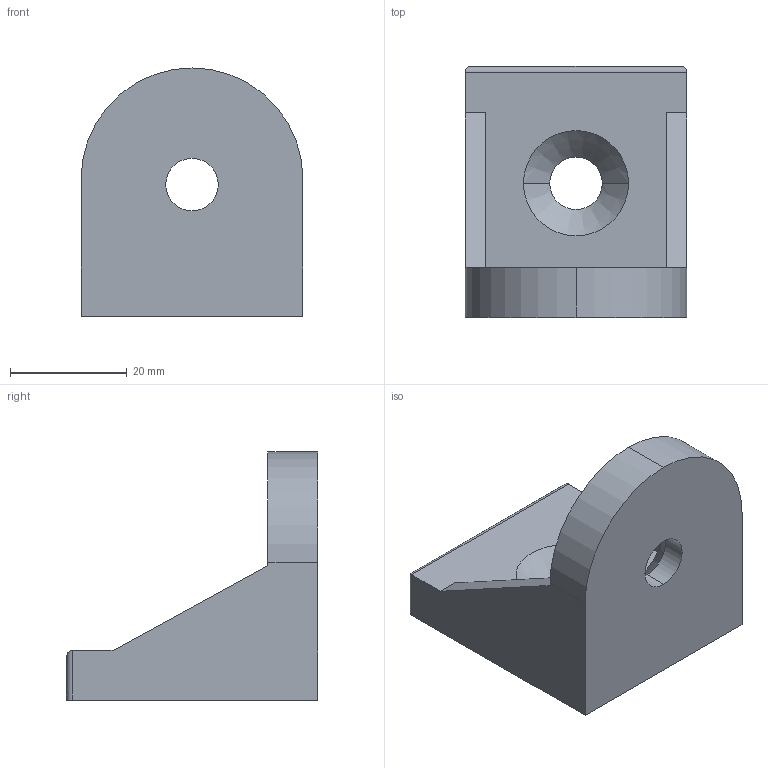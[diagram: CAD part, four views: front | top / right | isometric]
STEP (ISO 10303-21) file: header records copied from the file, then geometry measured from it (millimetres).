
FILE_DESCRIPTION (( 'STEP AP203' ), '1' );
FILE_NAME ('2017.STEP', '2016-04-07T08:46:03', ( '' ), ( '' ), 'SwSTEP 2.0', 'SolidWorks 2014', '' );
FILE_SCHEMA (( 'CONFIG_CONTROL_DESIGN' ));
Length unit declared in the file: millimetre
Products named in the file (1): 2017
Bounding box: 38 x 43 x 42.5 mm (x, y, z)
Volume: 23043.7 mm3; surface area: 8157.7 mm2
Topology: 1 solids, 1 shells, 24 faces, 60 edges, 38 vertices
Faces by surface type: plane 11, cylinder 9, cone 4
Entity records: 799 total; most frequent: CARTESIAN_POINT 129, DIRECTION 126, ORIENTED_EDGE 120, EDGE_CURVE 60, AXIS2_PLACEMENT_3D 43, LINE 40, VECTOR 40, VERTEX_POINT 38
